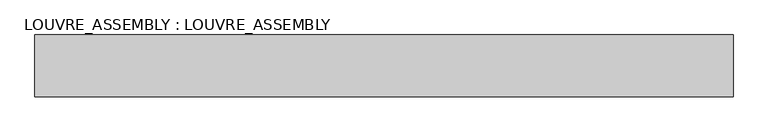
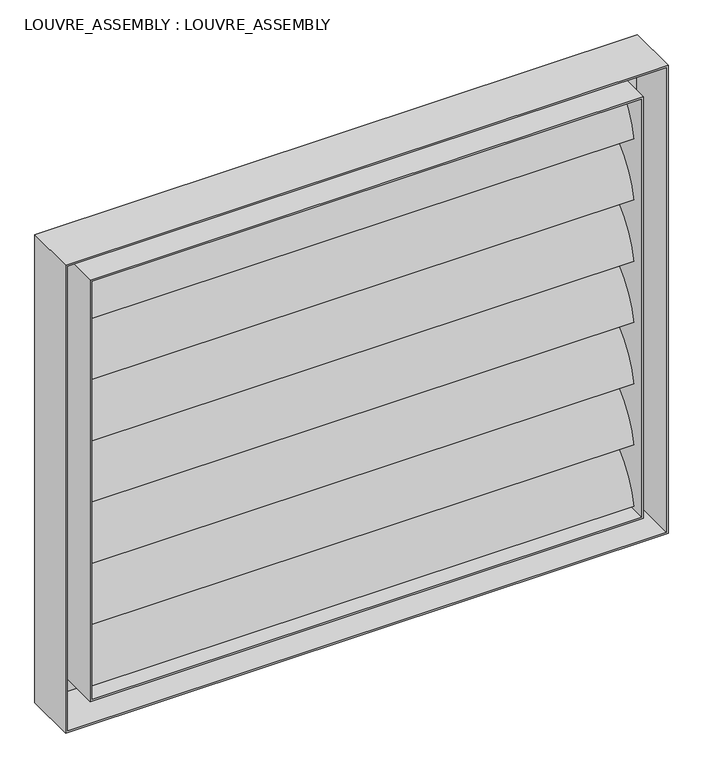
"""IFC4 building model written with IfcOpenShell, lengths in millimetres: plate geometry, LOUVRE_ASSEMBLY : LOUVRE_ASSEMBLY."""

from ifc_helpers import new_model, si_unit, point, frame, frame_2d, origin, place, context, project, spatial, circle_curve, trimmed, segment, composite_curve, outline, extrude, faceted_brep, source, transform, mapped, element, save


def louvre_assembly_louvre_assembly_c5f2a191(model_context):
    return source(origin(), model_context, "Body", "SolidModel", [
        extrude(outline(composite_curve([segment(trimmed(circle_curve(frame_2d((181.8653348, 227.5)), 222.9910312), [point((-37.5, 267.5480947))], [point((37.5, 397.4519053))], False, "CARTESIAN"), True, "CONTINUOUS"), segment(trimmed(circle_curve(frame_2d((-181.8653348, 437.5)), 222.9910312), [point((37.5, 397.4519053))], [point((-37.5, 267.5480947))], False, "CARTESIAN"), True, "CONTINUOUS")], self_intersect=False)), frame((-775.0, 0.0, 0.0), z_axis=(1.0, 0.0, 0.0), x_axis=(0.0, 1.0, 0.0)), (0.0, 0.0, 1.0), 1550.0),
        extrude(outline(composite_curve([segment(trimmed(circle_curve(frame_2d((181.8653348, 410.0)), 222.9910312), [point((-37.5, 450.0480947))], [point((37.5, 579.9519053))], False, "CARTESIAN"), True, "CONTINUOUS"), segment(trimmed(circle_curve(frame_2d((-181.8653348, 620.0)), 222.9910312), [point((37.5, 579.9519053))], [point((-37.5, 450.0480947))], False, "CARTESIAN"), True, "CONTINUOUS")], self_intersect=False)), frame((-775.0, 0.0, 0.0), z_axis=(1.0, 0.0, 0.0), x_axis=(0.0, 1.0, 0.0)), (0.0, 0.0, 1.0), 1550.0),
        extrude(outline(composite_curve([segment(trimmed(circle_curve(frame_2d((181.8653348, 592.5)), 222.9910312), [point((-37.5, 632.5480947))], [point((37.5, 762.4519053))], False, "CARTESIAN"), True, "CONTINUOUS"), segment(trimmed(circle_curve(frame_2d((-181.8653348, 802.5)), 222.9910312), [point((37.5, 762.4519053))], [point((-37.5, 632.5480947))], False, "CARTESIAN"), True, "CONTINUOUS")], self_intersect=False)), frame((-775.0, 0.0, 0.0), z_axis=(1.0, 0.0, 0.0), x_axis=(0.0, 1.0, 0.0)), (0.0, 0.0, 1.0), 1550.0),
        extrude(outline(composite_curve([segment(trimmed(circle_curve(frame_2d((181.8653348, 775.0)), 222.9910312), [point((-37.5, 815.0480947))], [point((37.5, 944.9519053))], False, "CARTESIAN"), True, "CONTINUOUS"), segment(trimmed(circle_curve(frame_2d((-181.8653348, 985.0)), 222.9910312), [point((37.5, 944.9519053))], [point((-37.5, 815.0480947))], False, "CARTESIAN"), True, "CONTINUOUS")], self_intersect=False)), frame((-775.0, 0.0, 0.0), z_axis=(1.0, 0.0, 0.0), x_axis=(0.0, 1.0, 0.0)), (0.0, 0.0, 1.0), 1550.0),
        extrude(outline(composite_curve([segment(trimmed(circle_curve(frame_2d((181.8653348, 957.5)), 222.9910312), [point((-37.5, 997.5480947))], [point((37.5, 1127.4519053))], False, "CARTESIAN"), True, "CONTINUOUS"), segment(trimmed(circle_curve(frame_2d((-181.8653348, 1167.5)), 222.9910312), [point((37.5, 1127.4519053))], [point((-37.5, 997.5480947))], False, "CARTESIAN"), True, "CONTINUOUS")], self_intersect=False)), frame((-775.0, 0.0, 0.0), z_axis=(1.0, 0.0, 0.0), x_axis=(0.0, 1.0, 0.0)), (0.0, 0.0, 1.0), 1550.0),
        extrude(outline(composite_curve([segment(trimmed(circle_curve(frame_2d((181.8653348, 45.0)), 222.9910312), [point((-37.5, 85.0480947))], [point((37.5, 214.9519053))], False, "CARTESIAN"), True, "CONTINUOUS"), segment(trimmed(circle_curve(frame_2d((-181.8653348, 255.0)), 222.9910312), [point((37.5, 214.9519053))], [point((-37.5, 85.0480947))], False, "CARTESIAN"), True, "CONTINUOUS")], self_intersect=False)), frame((-775.0, 0.0, 0.0), z_axis=(1.0, 0.0, 0.0), x_axis=(0.0, 1.0, 0.0)), (0.0, 0.0, 1.0), 1550.0),
        extrude(outline(composite_curve([segment(trimmed(circle_curve(frame_2d((181.8653348, 1140.0)), 222.9910312), [point((-37.5, 1180.0480947))], [point((37.5, 1309.9519053))], False, "CARTESIAN"), True, "CONTINUOUS"), segment(trimmed(circle_curve(frame_2d((-181.8653348, 1350.0)), 222.9910312), [point((37.5, 1309.9519053))], [point((-37.5, 1180.0480947))], False, "CARTESIAN"), True, "CONTINUOUS")], self_intersect=False)), frame((-775.0, 0.0, 0.0), z_axis=(1.0, 0.0, 0.0), x_axis=(0.0, 1.0, 0.0)), (0.0, 0.0, 1.0), 1550.0),
        faceted_brep([(-850.0, 75.0, 1395.0), (-850.0, 75.0, 0.0), (-850.0, -75.0, 0.0), (-850.0, -75.0, 1395.0), (-844.375, -75.0, 1389.375), (-844.375, -75.0, 5.625), (-844.375, 69.375, 5.625), (-844.375, 69.375, 1389.375), (-780.625, 69.375, 1325.625), (-780.625, 69.375, 69.375), (-780.625, -75.0, 69.375), (-780.625, -75.0, 1325.625), (-775.0, -75.0, 1320.0), (-775.0, -75.0, 75.0), (-775.0, 75.0, 75.0), (-775.0, 75.0, 1320.0), (850.0, 75.0, 0.0), (850.0, -75.0, 0.0), (844.375, -75.0, 5.625), (844.375, 69.375, 5.625), (780.625, 69.375, 69.375), (780.625, -75.0, 69.375), (775.0, -75.0, 75.0), (775.0, 75.0, 75.0), (850.0, 75.0, 1395.0), (850.0, -75.0, 1395.0), (844.375, -75.0, 1389.375), (844.375, 69.375, 1389.375), (780.625, 69.375, 1325.625), (780.625, -75.0, 1325.625), (775.0, -75.0, 1320.0), (775.0, 75.0, 1320.0)], [[[0, 1, 2, 3]], [[4, 5, 6, 7]], [[8, 9, 10, 11]], [[12, 13, 14, 15]], [[1, 16, 17, 2]], [[5, 18, 19, 6]], [[9, 20, 21, 10]], [[13, 22, 23, 14]], [[16, 24, 25, 17]], [[18, 26, 27, 19]], [[20, 28, 29, 21]], [[22, 30, 31, 23]], [[24, 0, 3, 25]], [[26, 4, 7, 27]], [[28, 8, 11, 29]], [[30, 12, 15, 31]], [[1, 0, 24, 16], [15, 14, 23, 31]], [[11, 10, 21, 29], [13, 12, 30, 22]], [[7, 6, 19, 27], [9, 8, 28, 20]], [[3, 2, 17, 25], [5, 4, 26, 18]]]),
    ])


if __name__ == "__main__":
    model = new_model("IFC4")
    model_context = context("Model", 3, world=origin())
    ifc_project = project(units=[si_unit("LENGTHUNIT", "METRE", prefix="MILLI")], contexts=[model_context])
    site = spatial("IfcSite", under=ifc_project)
    building = spatial("IfcBuilding", under=site)
    placement = place(None, origin())
    louvre_assembly_louvre_assembly_shape = louvre_assembly_louvre_assembly_c5f2a191(model_context)
    element("IfcPlate", 1, ObjectType="LOUVRE_ASSEMBLY : LOUVRE_ASSEMBLY", at=placement, inside=building, context=model_context, shape_type="MappedRepresentation", body=[
        mapped(louvre_assembly_louvre_assembly_shape, transform((0.0, 0.0, 0.0), x_axis=(1.0, 0.0, 0.0), y_axis=(0.0, 1.0, 0.0), z_axis=(0.0, 0.0, 1.0))),
    ])
    save(model, "model.ifc")
